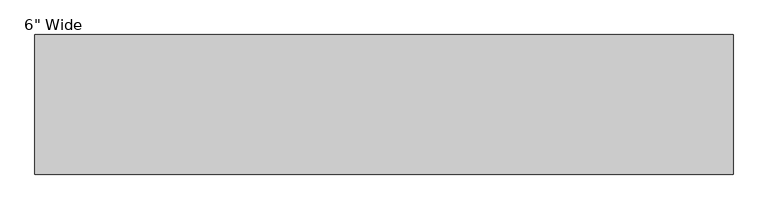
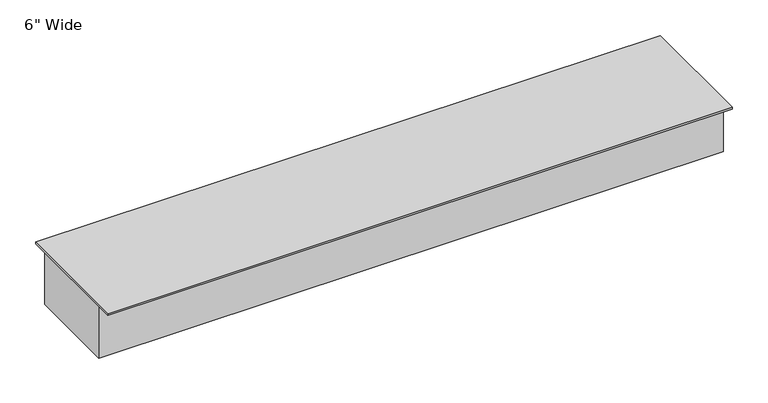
"""IFC4 building model written with IfcOpenShell, lengths in millimetres: proxy geometry."""

from ifc_helpers import new_model, si_unit, frame, origin, place, context, project, spatial, polyline, outline, extrude, source, transform, mapped, element, save


def proxy_b5014839(model_context):
    return source(origin(), model_context, "Body", "SweptSolid", [
        extrude(outline(polyline([(1016.0, 101.6), (1016.0, -101.6), (0.0, -101.6), (0.0, 101.6), (1016.0, 101.6)])), frame((0.0, 0.0, -3.175), z_axis=(0.0, 0.0, 1.0), x_axis=(1.0, 0.0, 0.0)), (0.0, 0.0, 1.0), 3.175),
        extrude(outline(polyline([(1016.0, 76.2), (1016.0, -76.2), (0.0, -76.2), (0.0, 76.2), (1016.0, 76.2)])), frame((0.0, 0.0, -92.075), z_axis=(0.0, 0.0, 1.0), x_axis=(1.0, 0.0, 0.0)), (0.0, 0.0, 1.0), 88.9),
    ])


if __name__ == "__main__":
    model = new_model("IFC4")
    model_context = context("Model", 3, world=origin())
    ifc_project = project(units=[si_unit("LENGTHUNIT", "METRE", prefix="MILLI")], contexts=[model_context])
    site = spatial("IfcSite", under=ifc_project)
    building = spatial("IfcBuilding", under=site)
    placement = place(None, origin())
    proxy_shape = proxy_b5014839(model_context)
    element("IfcBuildingElementProxy", 1, Name="Duct-Wallduct-Wiremold : 6\" Wide", ObjectType="Duct-Wallduct-Wiremold : 6\" Wide", at=placement, inside=building, context=model_context, shape_type="MappedRepresentation", body=[
        mapped(proxy_shape, transform((0.0, 0.0, 0.0), x_axis=(1.0, 0.0, 0.0), y_axis=(0.0, 1.0, 0.0), z_axis=(0.0, 0.0, 1.0))),
    ])
    save(model, "model.ifc")
